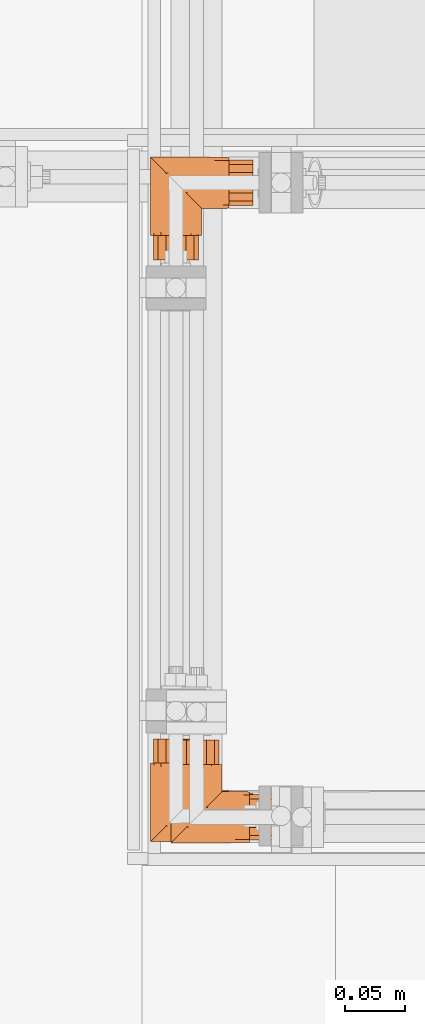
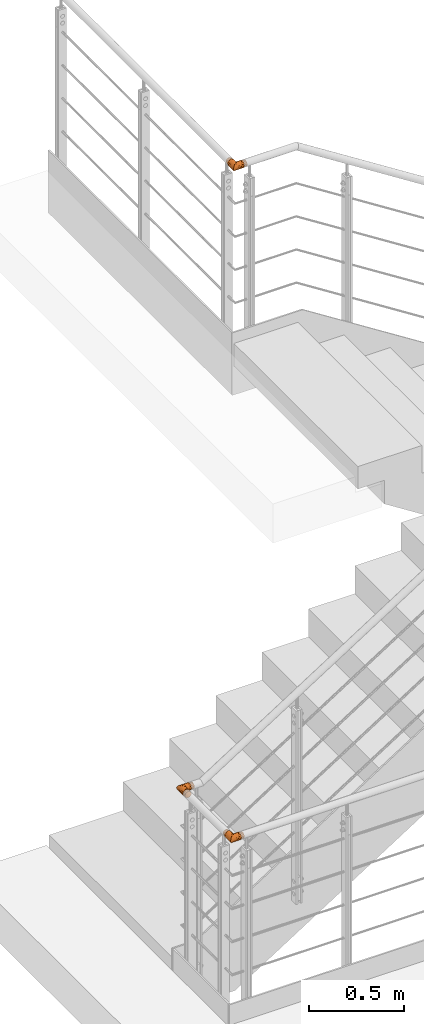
# One storey, part 95 of 98: 3 proxies.
"""IFC2X3 building model written with IfcOpenShell, lengths in millimetres."""

from ifc_helpers import new_model, entity, si_unit, converted_unit, origin_with_axes, place, context, project, spatial, faceted_brep, material, element, save


model = new_model("IFC2X3")

# Units and contexts
model_context = context("Model", 3, precision=1e-09, world=origin_with_axes())
ifc_project = project(units=[si_unit("LENGTHUNIT", "METRE", prefix="MILLI"), si_unit("AREAUNIT", "SQUARE_METRE"), si_unit("VOLUMEUNIT", "CUBIC_METRE"), converted_unit("PLANEANGLEUNIT", "DEGREE", entity("IfcPlaneAngleMeasure", 0.01745329), si_unit("PLANEANGLEUNIT", "RADIAN"), dimensions=[0, 0, 0, 0, 0, 0, 0])], contexts=[model_context])

# Site, building, storey
site_placement = place(None, origin_with_axes())
site = spatial("IfcSite", under=ifc_project, at=site_placement, Name="Maybachstra?e 2, 71563 Affalterbach", CompositionType="ELEMENT")
building_placement = place(site_placement, origin_with_axes())
building = spatial("IfcBuilding", under=site, at=building_placement, Name="Struktur 1", CompositionType="ELEMENT")
storey_placement = place(building_placement, origin_with_axes())
storey = spatial("IfcBuildingStorey", under=building, at=storey_placement, Name="Default Storey", CompositionType="ELEMENT", Elevation=0.0)

# Proxies
ifc_material = material(Name="1.4301")
proxy_1_placement = place(None, origin_with_axes())
element("IfcBuildingElementProxy", 1, at=proxy_1_placement, inside=storey, material=ifc_material, ObjectType="-", context=model_context, shape_type="Brep", body=[
    faceted_brep([(7364.828157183, -550.330130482, 4483.061275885), (7384.828157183, -550.330130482, 4483.061275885), (7384.828157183, -550.330130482, 4474.538724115), (7364.828157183, -550.330130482, 4474.538724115), (7384.828157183, -583.972072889, 4466.860170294), (7384.828157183, -577.308873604, 4461.54644618), (7384.828157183, -569.0, 4459.65), (7384.828157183, -560.691126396, 4461.54644618), (7384.828157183, -554.027927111, 4466.860170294), (7384.828157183, -554.027927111, 4490.739829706), (7384.828157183, -560.691126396, 4496.05355382), (7384.828157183, -569.0, 4497.95), (7384.828157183, -577.308873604, 4496.05355382), (7384.828157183, -583.972072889, 4490.739829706), (7384.828157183, -587.669869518, 4483.061275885), (7384.828157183, -587.669869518, 4474.538724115), (7364.828157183, -554.027927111, 4490.739829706), (7364.828157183, -583.972072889, 4490.739829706), (7364.828157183, -577.308873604, 4496.05355382), (7364.828157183, -569.0, 4497.95), (7364.828157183, -560.691126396, 4496.05355382), (7364.828157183, -554.027927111, 4466.860170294), (7364.828157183, -560.691126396, 4461.54644618), (7364.828157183, -569.0, 4459.65), (7364.828157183, -577.308873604, 4461.54644618), (7364.828157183, -583.972072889, 4466.860170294), (7364.828157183, -587.669869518, 4474.538724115), (7364.828157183, -587.669869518, 4483.061275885)], [[[0, 1, 2, 3]], [[4, 5, 6, 7, 8, 2, 1, 9, 10, 11, 12, 13, 14, 15]], [[1, 0, 16, 9]], [[17, 18, 19, 20, 16, 0, 3, 21, 22, 23, 24, 25, 26, 27]], [[3, 2, 8, 21]], [[9, 16, 20, 10]], [[21, 8, 7, 22]], [[10, 20, 19, 11]], [[22, 7, 6, 23]], [[11, 19, 18, 12]], [[23, 6, 5, 24]], [[17, 13, 12, 18]], [[13, 17, 27, 14]], [[24, 5, 4, 25]], [[14, 27, 26, 15]], [[25, 4, 15, 26]]]),
    faceted_brep([(7300.235509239, -589.792647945, 4482.935914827), (7301.441911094, -588.586246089, 4486.912888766), (7303.401001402, -586.627155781, 4490.57808894), (7306.037493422, -583.990663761, 4493.790663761), (7312.915268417, -577.112888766, 4498.386246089), (7321.028157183, -569.0, 4500.0), (7329.141045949, -560.887111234, 4498.386246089), (7336.018820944, -554.009336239, 4493.790663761), (7338.655312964, -551.372844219, 4490.57808894), (7340.614403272, -549.413753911, 4486.912888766), (7341.820805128, -548.207352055, 4482.935914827), (7342.228157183, -547.8, 4478.8), (7341.820805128, -548.207352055, 4474.664085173), (7340.614403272, -549.413753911, 4470.687111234), (7338.655312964, -551.372844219, 4467.02191106), (7336.018820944, -554.009336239, 4463.809336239), (7329.141045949, -560.887111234, 4459.213753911), (7321.028157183, -569.0, 4457.6), (7312.915268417, -577.112888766, 4459.213753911), (7306.037493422, -583.990663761, 4463.809336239), (7303.401001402, -586.627155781, 4467.02191106), (7301.441911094, -588.586246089, 4470.687111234), (7300.235509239, -589.792647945, 4474.664085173), (7299.828157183, -590.2, 4478.8), (7364.828157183, -564.592272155, 4499.536729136), (7364.828157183, -569.0, 4457.6), (7364.828157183, -556.538952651, 4495.951160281), (7364.828157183, -573.407727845, 4499.536729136), (7364.828157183, -560.377183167, 4459.432836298), (7364.828157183, -553.2453297, 4464.614431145), (7364.828157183, -548.837601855, 4472.248839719), (7364.828157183, -547.916135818, 4481.016003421), (7364.828157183, -550.64026144, 4489.4), (7364.828157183, -581.461047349, 4495.951160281), (7364.828157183, -587.35973856, 4489.4), (7364.828157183, -590.083864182, 4481.016003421), (7364.828157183, -589.162398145, 4472.248839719), (7364.828157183, -584.7546703, 4464.614431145), (7364.828157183, -577.622816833, 4459.432836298)], [[[0, 1, 2, 3, 4, 5, 6, 7, 8, 9, 10, 11, 12, 13, 14, 15, 16, 17, 18, 19, 20, 21, 22, 23]], [[6, 5, 24]], [[17, 16, 25]], [[26, 6, 24]], [[24, 5, 27]], [[18, 17, 25]], [[25, 16, 28]], [[7, 6, 26]], [[28, 29, 30, 31, 32, 26, 24, 27, 33, 34, 35, 36, 37, 38, 25]], [[5, 4, 27]], [[38, 18, 25]], [[16, 15, 28]], [[8, 7, 32]], [[32, 7, 26]], [[27, 4, 33]], [[19, 18, 38]], [[11, 10, 31]], [[28, 15, 29]], [[9, 8, 32]], [[10, 9, 31]], [[4, 3, 33]], [[37, 19, 38]], [[31, 12, 11]], [[13, 12, 30]], [[14, 13, 30]], [[15, 14, 29]], [[31, 9, 32]], [[33, 3, 34]], [[20, 19, 37]], [[30, 12, 31]], [[29, 14, 30]], [[3, 2, 34]], [[36, 20, 37]], [[2, 1, 34]], [[21, 20, 36]], [[34, 1, 35]], [[22, 21, 36]], [[35, 22, 36]], [[1, 0, 35]], [[0, 23, 35]], [[35, 23, 22]]]),
    faceted_brep([(7302.358287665, -505.2, 4474.538724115), (7302.358287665, -525.2, 4474.538724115), (7302.358287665, -525.2, 4483.061275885), (7302.358287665, -505.2, 4483.061275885), (7306.056084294, -525.2, 4490.739829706), (7306.056084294, -505.2, 4490.739829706), (7336.000230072, -525.2, 4490.739829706), (7329.337030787, -525.2, 4496.05355382), (7321.028157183, -525.2, 4497.95), (7312.719283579, -525.2, 4496.05355382), (7306.056084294, -525.2, 4466.860170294), (7312.719283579, -525.2, 4461.54644618), (7321.028157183, -525.2, 4459.65), (7329.337030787, -525.2, 4461.54644618), (7336.000230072, -525.2, 4466.860170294), (7339.698026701, -525.2, 4474.538724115), (7339.698026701, -525.2, 4483.061275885), (7306.056084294, -505.2, 4466.860170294), (7336.000230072, -505.2, 4466.860170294), (7329.337030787, -505.2, 4461.54644618), (7321.028157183, -505.2, 4459.65), (7312.719283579, -505.2, 4461.54644618), (7312.719283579, -505.2, 4496.05355382), (7321.028157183, -505.2, 4497.95), (7329.337030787, -505.2, 4496.05355382), (7336.000230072, -505.2, 4490.739829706), (7339.698026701, -505.2, 4483.061275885), (7339.698026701, -505.2, 4474.538724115)], [[[0, 1, 2, 3]], [[3, 2, 4, 5]], [[6, 7, 8, 9, 4, 2, 1, 10, 11, 12, 13, 14, 15, 16]], [[1, 0, 17, 10]], [[18, 19, 20, 21, 17, 0, 3, 5, 22, 23, 24, 25, 26, 27]], [[5, 4, 9, 22]], [[10, 17, 21, 11]], [[20, 12, 11, 21]], [[22, 9, 8, 23]], [[12, 20, 19, 13]], [[13, 19, 18, 14]], [[23, 8, 7, 24]], [[6, 25, 24, 7]], [[16, 26, 25, 6]], [[15, 27, 26, 16]], [[14, 18, 27, 15]]]),
    faceted_brep([(7321.028157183, -525.2, 4457.6), (7321.028157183, -569.0, 4457.6), (7312.40534035, -525.2, 4459.432836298), (7306.037493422, -583.990663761, 4463.809336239), (7305.273486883, -525.2, 4464.614431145), (7333.489204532, -525.2, 4495.951160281), (7339.387895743, -525.2, 4489.4), (7342.112021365, -525.2, 4481.016003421), (7341.190555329, -525.2, 4472.248839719), (7336.782827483, -525.2, 4464.614431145), (7329.650974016, -525.2, 4459.432836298), (7300.865759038, -525.2, 4472.248839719), (7299.944293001, -525.2, 4481.016003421), (7302.668418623, -525.2, 4489.4), (7308.567109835, -525.2, 4495.951160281), (7316.620429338, -525.2, 4499.536729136), (7325.435885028, -525.2, 4499.536729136), (7329.141045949, -560.887111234, 4459.213753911), (7341.820805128, -548.207352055, 4482.935914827), (7340.614403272, -549.413753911, 4486.912888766), (7338.655312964, -551.372844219, 4490.57808894), (7336.018820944, -554.009336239, 4493.790663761), (7329.141045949, -560.887111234, 4498.386246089), (7321.028157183, -569.0, 4500.0), (7312.915268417, -577.112888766, 4498.386246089), (7306.037493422, -583.990663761, 4493.790663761), (7303.401001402, -586.627155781, 4490.57808894), (7301.441911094, -588.586246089, 4486.912888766), (7300.235509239, -589.792647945, 4482.935914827), (7299.828157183, -590.2, 4478.8), (7300.235509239, -589.792647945, 4474.664085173), (7301.441911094, -588.586246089, 4470.687111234), (7303.401001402, -586.627155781, 4467.02191106), (7312.915268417, -577.112888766, 4459.213753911), (7336.018820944, -554.009336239, 4463.809336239), (7338.655312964, -551.372844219, 4467.02191106), (7340.614403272, -549.413753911, 4470.687111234), (7341.820805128, -548.207352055, 4474.664085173), (7342.228157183, -547.8, 4478.8)], [[[0, 1, 2]], [[2, 3, 4]], [[5, 6, 7, 8, 9, 10, 0, 2, 4, 11, 12, 13, 14, 15, 16]], [[17, 1, 0]], [[18, 19, 20, 21, 22, 23, 24, 25, 26, 27, 28, 29, 30, 31, 32, 3, 33, 1, 17, 34, 35, 36, 37, 38]], [[1, 33, 2]], [[33, 3, 2]], [[32, 31, 11]], [[3, 32, 4]], [[10, 17, 0]], [[24, 23, 15]], [[15, 23, 16]], [[23, 22, 16]], [[30, 29, 12]], [[31, 30, 11]], [[4, 32, 11]], [[34, 17, 10]], [[14, 24, 15]], [[12, 29, 28]], [[16, 22, 5]], [[11, 30, 12]], [[9, 34, 10]], [[25, 24, 14]], [[26, 25, 13]], [[27, 26, 13]], [[28, 27, 12]], [[22, 21, 5]], [[35, 34, 9]], [[13, 25, 14]], [[12, 27, 13]], [[5, 21, 6]], [[8, 35, 9]], [[21, 20, 6]], [[7, 37, 8]], [[36, 35, 8]], [[20, 19, 6]], [[38, 37, 7]], [[37, 36, 8]], [[18, 38, 7]], [[6, 19, 7]], [[7, 19, 18]]]),
])
proxy_2_placement = place(None, origin_with_axes())
element("IfcBuildingElementProxy", 2, at=proxy_2_placement, inside=storey, material=ifc_material, ObjectType="-", context=model_context, shape_type="Brep", body=[
    faceted_brep([(7384.828157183, -63.669869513, 4483.061275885), (7364.828157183, -63.669869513, 4483.061275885), (7364.828157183, -63.669869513, 4474.538724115), (7384.828157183, -63.669869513, 4474.538724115), (7384.828157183, -36.69112639, 4461.54644618), (7384.828157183, -30.027927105, 4466.860170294), (7384.828157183, -26.330130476, 4474.538724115), (7384.828157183, -26.330130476, 4483.061275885), (7384.828157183, -30.027927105, 4490.739829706), (7384.828157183, -36.69112639, 4496.05355382), (7384.828157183, -44.999999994, 4497.95), (7384.828157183, -53.308873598, 4496.05355382), (7384.828157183, -59.972072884, 4490.739829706), (7384.828157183, -59.972072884, 4466.860170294), (7384.828157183, -53.308873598, 4461.54644618), (7384.828157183, -44.999999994, 4459.65), (7364.828157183, -59.972072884, 4490.739829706), (7364.828157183, -36.69112639, 4496.05355382), (7364.828157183, -30.027927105, 4490.739829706), (7364.828157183, -26.330130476, 4483.061275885), (7364.828157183, -26.330130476, 4474.538724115), (7364.828157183, -30.027927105, 4466.860170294), (7364.828157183, -36.69112639, 4461.54644618), (7364.828157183, -44.999999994, 4459.65), (7364.828157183, -53.308873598, 4461.54644618), (7364.828157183, -59.972072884, 4466.860170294), (7364.828157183, -53.308873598, 4496.05355382), (7364.828157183, -44.999999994, 4497.95)], [[[0, 1, 2, 3]], [[4, 5, 6, 7, 8, 9, 10, 11, 12, 0, 3, 13, 14, 15]], [[1, 0, 12, 16]], [[17, 18, 19, 20, 21, 22, 23, 24, 25, 2, 1, 16, 26, 27]], [[3, 2, 25, 13]], [[16, 12, 11, 26]], [[13, 25, 24, 14]], [[26, 11, 10, 27]], [[14, 24, 23, 15]], [[27, 10, 9, 17]], [[15, 23, 22, 4]], [[8, 18, 17, 9]], [[18, 8, 7, 19]], [[4, 22, 21, 5]], [[19, 7, 6, 20]], [[5, 21, 20, 6]]]),
    faceted_brep([(7301.441911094, -25.413753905, 4486.912888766), (7300.235509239, -24.20735205, 4482.935914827), (7299.828157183, -23.799999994, 4478.8), (7300.235509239, -24.20735205, 4474.664085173), (7301.441911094, -25.413753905, 4470.687111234), (7303.401001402, -27.372844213, 4467.02191106), (7306.037493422, -30.009336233, 4463.809336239), (7312.915268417, -36.887111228, 4459.213753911), (7321.028157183, -44.999999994, 4457.6), (7329.141045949, -53.11288876, 4459.213753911), (7336.018820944, -59.990663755, 4463.809336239), (7338.655312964, -62.627155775, 4467.02191106), (7340.614403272, -64.586246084, 4470.687111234), (7341.820805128, -65.792647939, 4474.664085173), (7342.228157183, -66.199999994, 4478.8), (7341.820805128, -65.792647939, 4482.935914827), (7340.614403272, -64.586246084, 4486.912888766), (7338.655312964, -62.627155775, 4490.57808894), (7336.018820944, -59.990663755, 4493.790663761), (7329.141045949, -53.11288876, 4498.386246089), (7321.028157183, -44.999999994, 4500.0), (7312.915268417, -36.887111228, 4498.386246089), (7306.037493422, -30.009336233, 4493.790663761), (7303.401001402, -27.372844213, 4490.57808894), (7364.828157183, -49.40772784, 4499.536729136), (7364.828157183, -44.999999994, 4457.6), (7364.828157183, -57.461047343, 4495.951160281), (7364.828157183, -40.592272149, 4499.536729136), (7364.828157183, -53.622816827, 4459.432836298), (7364.828157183, -60.754670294, 4464.614431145), (7364.828157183, -36.377183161, 4459.432836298), (7364.828157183, -29.245329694, 4464.614431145), (7364.828157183, -24.837601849, 4472.248839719), (7364.828157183, -23.916135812, 4481.016003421), (7364.828157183, -26.640261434, 4489.4), (7364.828157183, -32.538952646, 4495.951160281), (7364.828157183, -63.359738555, 4489.4), (7364.828157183, -66.083864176, 4481.016003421), (7364.828157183, -65.16239814, 4472.248839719)], [[[0, 1, 2, 3, 4, 5, 6, 7, 8, 9, 10, 11, 12, 13, 14, 15, 16, 17, 18, 19, 20, 21, 22, 23]], [[20, 19, 24]], [[9, 8, 25]], [[19, 26, 24]], [[20, 24, 27]], [[8, 7, 25]], [[9, 25, 28]], [[19, 18, 26]], [[29, 28, 25, 30, 31, 32, 33, 34, 35, 27, 24, 26, 36, 37, 38]], [[21, 20, 27]], [[7, 30, 25]], [[10, 9, 28]], [[18, 17, 36]], [[18, 36, 26]], [[21, 27, 35]], [[7, 6, 30]], [[15, 14, 37]], [[10, 28, 29]], [[17, 16, 36]], [[16, 15, 37]], [[22, 21, 35]], [[6, 31, 30]], [[13, 37, 14]], [[13, 12, 38]], [[12, 11, 38]], [[11, 10, 29]], [[16, 37, 36]], [[22, 35, 34]], [[6, 5, 31]], [[13, 38, 37]], [[11, 29, 38]], [[23, 22, 34]], [[5, 32, 31]], [[0, 23, 34]], [[5, 4, 32]], [[0, 34, 33]], [[4, 3, 32]], [[3, 33, 32]], [[1, 0, 33]], [[2, 1, 33]], [[2, 33, 3]]]),
    faceted_brep([(7302.358287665, -88.799999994, 4474.538724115), (7302.358287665, -108.799999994, 4474.538724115), (7302.358287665, -108.799999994, 4483.061275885), (7302.358287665, -88.799999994, 4483.061275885), (7306.056084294, -108.799999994, 4490.739829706), (7306.056084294, -88.799999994, 4490.739829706), (7329.337030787, -88.799999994, 4496.05355382), (7336.000230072, -88.799999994, 4490.739829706), (7339.698026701, -88.799999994, 4483.061275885), (7339.698026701, -88.799999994, 4474.538724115), (7336.000230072, -88.799999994, 4466.860170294), (7329.337030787, -88.799999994, 4461.54644618), (7321.028157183, -88.799999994, 4459.65), (7312.719283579, -88.799999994, 4461.54644618), (7306.056084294, -88.799999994, 4466.860170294), (7312.719283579, -88.799999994, 4496.05355382), (7321.028157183, -88.799999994, 4497.95), (7306.056084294, -108.799999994, 4466.860170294), (7329.337030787, -108.799999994, 4461.54644618), (7336.000230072, -108.799999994, 4466.860170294), (7339.698026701, -108.799999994, 4474.538724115), (7339.698026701, -108.799999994, 4483.061275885), (7336.000230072, -108.799999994, 4490.739829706), (7329.337030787, -108.799999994, 4496.05355382), (7321.028157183, -108.799999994, 4497.95), (7312.719283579, -108.799999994, 4496.05355382), (7312.719283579, -108.799999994, 4461.54644618), (7321.028157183, -108.799999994, 4459.65)], [[[0, 1, 2, 3]], [[3, 2, 4, 5]], [[6, 7, 8, 9, 10, 11, 12, 13, 14, 0, 3, 5, 15, 16]], [[1, 0, 14, 17]], [[18, 19, 20, 21, 22, 23, 24, 25, 4, 2, 1, 17, 26, 27]], [[5, 4, 25, 15]], [[17, 14, 13, 26]], [[12, 27, 26, 13]], [[15, 25, 24, 16]], [[27, 12, 11, 18]], [[18, 11, 10, 19]], [[16, 24, 23, 6]], [[22, 7, 6, 23]], [[21, 8, 7, 22]], [[20, 9, 8, 21]], [[19, 10, 9, 20]]]),
    faceted_brep([(7321.028157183, -44.999999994, 4457.6), (7321.028157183, -88.799999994, 4457.6), (7312.40534035, -88.799999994, 4459.432836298), (7306.037493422, -30.009336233, 4463.809336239), (7305.273486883, -88.799999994, 4464.614431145), (7339.387895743, -88.799999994, 4489.4), (7333.489204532, -88.799999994, 4495.951160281), (7325.435885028, -88.799999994, 4499.536729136), (7316.620429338, -88.799999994, 4499.536729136), (7308.567109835, -88.799999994, 4495.951160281), (7302.668418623, -88.799999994, 4489.4), (7299.944293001, -88.799999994, 4481.016003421), (7300.865759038, -88.799999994, 4472.248839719), (7329.650974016, -88.799999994, 4459.432836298), (7336.782827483, -88.799999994, 4464.614431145), (7341.190555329, -88.799999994, 4472.248839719), (7342.112021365, -88.799999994, 4481.016003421), (7329.141045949, -53.11288876, 4459.213753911), (7340.614403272, -64.586246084, 4486.912888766), (7341.820805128, -65.792647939, 4482.935914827), (7342.228157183, -66.199999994, 4478.8), (7341.820805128, -65.792647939, 4474.664085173), (7340.614403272, -64.586246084, 4470.687111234), (7338.655312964, -62.627155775, 4467.02191106), (7336.018820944, -59.990663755, 4463.809336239), (7312.915268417, -36.887111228, 4459.213753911), (7303.401001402, -27.372844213, 4467.02191106), (7301.441911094, -25.413753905, 4470.687111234), (7300.235509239, -24.20735205, 4474.664085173), (7299.828157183, -23.799999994, 4478.8), (7300.235509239, -24.20735205, 4482.935914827), (7301.441911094, -25.413753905, 4486.912888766), (7303.401001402, -27.372844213, 4490.57808894), (7306.037493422, -30.009336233, 4493.790663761), (7312.915268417, -36.887111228, 4498.386246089), (7321.028157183, -44.999999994, 4500.0), (7329.141045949, -53.11288876, 4498.386246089), (7336.018820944, -59.990663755, 4493.790663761), (7338.655312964, -62.627155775, 4490.57808894)], [[[0, 1, 2]], [[3, 2, 4]], [[5, 6, 7, 8, 9, 10, 11, 12, 4, 2, 1, 13, 14, 15, 16]], [[0, 17, 1]], [[18, 19, 20, 21, 22, 23, 24, 17, 0, 25, 3, 26, 27, 28, 29, 30, 31, 32, 33, 34, 35, 36, 37, 38]], [[25, 0, 2]], [[3, 25, 2]], [[27, 26, 12]], [[26, 3, 4]], [[17, 13, 1]], [[35, 34, 8]], [[35, 8, 7]], [[36, 35, 7]], [[29, 28, 11]], [[28, 27, 12]], [[26, 4, 12]], [[17, 24, 13]], [[34, 9, 8]], [[29, 11, 30]], [[36, 7, 6]], [[28, 12, 11]], [[24, 14, 13]], [[34, 33, 9]], [[33, 32, 10]], [[32, 31, 10]], [[31, 30, 11]], [[37, 36, 6]], [[24, 23, 14]], [[33, 10, 9]], [[31, 11, 10]], [[37, 6, 5]], [[23, 15, 14]], [[38, 37, 5]], [[21, 16, 15]], [[23, 22, 15]], [[18, 38, 5]], [[21, 20, 16]], [[22, 21, 15]], [[20, 19, 16]], [[18, 5, 16]], [[18, 16, 19]]]),
])
proxy_3_placement = place(None, origin_with_axes())
element("IfcBuildingElementProxy", 3, at=proxy_3_placement, inside=storey, material=ifc_material, ObjectType="-", context=model_context, shape_type="Brep", body=[
    faceted_brep([(7381.829157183, -551.330130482, 8778.061275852), (7401.829157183, -551.330130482, 8778.061275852), (7401.829157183, -551.330130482, 8769.538724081), (7381.829157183, -551.330130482, 8769.538724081), (7401.829157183, -584.972072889, 8761.860170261), (7401.829157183, -578.308873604, 8756.546446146), (7401.829157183, -570.0, 8754.649999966), (7401.829157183, -561.691126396, 8756.546446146), (7401.829157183, -555.027927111, 8761.860170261), (7401.829157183, -555.027927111, 8785.739829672), (7401.829157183, -561.691126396, 8791.053553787), (7401.829157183, -570.0, 8792.949999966), (7401.829157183, -578.308873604, 8791.053553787), (7401.829157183, -584.972072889, 8785.739829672), (7401.829157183, -588.669869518, 8778.061275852), (7401.829157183, -588.669869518, 8769.538724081), (7381.829157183, -555.027927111, 8785.739829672), (7381.829157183, -584.972072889, 8785.739829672), (7381.829157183, -578.308873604, 8791.053553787), (7381.829157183, -570.0, 8792.949999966), (7381.829157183, -561.691126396, 8791.053553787), (7381.829157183, -555.027927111, 8761.860170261), (7381.829157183, -561.691126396, 8756.546446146), (7381.829157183, -570.0, 8754.649999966), (7381.829157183, -578.308873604, 8756.546446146), (7381.829157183, -584.972072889, 8761.860170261), (7381.829157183, -588.669869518, 8769.538724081), (7381.829157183, -588.669869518, 8778.061275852)], [[[0, 1, 2, 3]], [[4, 5, 6, 7, 8, 2, 1, 9, 10, 11, 12, 13, 14, 15]], [[1, 0, 16, 9]], [[17, 18, 19, 20, 16, 0, 3, 21, 22, 23, 24, 25, 26, 27]], [[3, 2, 8, 21]], [[9, 16, 20, 10]], [[21, 8, 7, 22]], [[10, 20, 19, 11]], [[22, 7, 6, 23]], [[11, 19, 18, 12]], [[23, 6, 5, 24]], [[17, 13, 12, 18]], [[13, 17, 27, 14]], [[24, 5, 4, 25]], [[14, 27, 26, 15]], [[25, 4, 15, 26]]]),
    faceted_brep([(7317.236509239, -590.792647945, 8777.935914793), (7318.442911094, -589.586246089, 8781.912888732), (7320.402001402, -587.627155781, 8785.578088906), (7323.038493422, -584.990663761, 8788.790663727), (7329.916268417, -578.112888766, 8793.386246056), (7338.029157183, -570.0, 8794.999999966), (7346.142045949, -561.887111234, 8793.386246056), (7353.019820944, -555.009336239, 8788.790663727), (7355.656312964, -552.372844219, 8785.578088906), (7357.615403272, -550.413753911, 8781.912888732), (7358.821805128, -549.207352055, 8777.935914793), (7359.229157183, -548.8, 8773.799999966), (7358.821805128, -549.207352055, 8769.66408514), (7357.615403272, -550.413753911, 8765.6871112), (7355.656312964, -552.372844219, 8762.021911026), (7353.019820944, -555.009336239, 8758.809336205), (7346.142045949, -561.887111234, 8754.213753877), (7338.029157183, -570.0, 8752.599999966), (7329.916268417, -578.112888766, 8754.213753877), (7323.038493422, -584.990663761, 8758.809336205), (7320.402001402, -587.627155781, 8762.021911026), (7318.442911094, -589.586246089, 8765.6871112), (7317.236509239, -590.792647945, 8769.66408514), (7316.829157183, -591.2, 8773.799999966), (7381.829157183, -565.592272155, 8794.536729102), (7381.829157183, -570.0, 8752.599999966), (7381.829157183, -557.538952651, 8790.951160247), (7381.829157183, -574.407727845, 8794.536729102), (7381.829157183, -561.377183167, 8754.432836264), (7381.829157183, -554.2453297, 8759.614431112), (7381.829157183, -549.837601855, 8767.248839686), (7381.829157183, -548.916135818, 8776.016003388), (7381.829157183, -551.64026144, 8784.399999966), (7381.829157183, -582.461047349, 8790.951160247), (7381.829157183, -588.35973856, 8784.399999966), (7381.829157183, -591.083864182, 8776.016003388), (7381.829157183, -590.162398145, 8767.248839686), (7381.829157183, -585.7546703, 8759.614431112), (7381.829157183, -578.622816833, 8754.432836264)], [[[0, 1, 2, 3, 4, 5, 6, 7, 8, 9, 10, 11, 12, 13, 14, 15, 16, 17, 18, 19, 20, 21, 22, 23]], [[6, 5, 24]], [[17, 16, 25]], [[26, 6, 24]], [[24, 5, 27]], [[18, 17, 25]], [[25, 16, 28]], [[7, 6, 26]], [[28, 29, 30, 31, 32, 26, 24, 27, 33, 34, 35, 36, 37, 38, 25]], [[5, 4, 27]], [[38, 18, 25]], [[16, 15, 28]], [[8, 7, 32]], [[32, 7, 26]], [[27, 4, 33]], [[19, 18, 38]], [[11, 10, 31]], [[28, 15, 29]], [[9, 8, 32]], [[10, 9, 31]], [[4, 3, 33]], [[37, 19, 38]], [[31, 12, 11]], [[13, 12, 30]], [[14, 13, 30]], [[15, 14, 29]], [[31, 9, 32]], [[33, 3, 34]], [[20, 19, 37]], [[30, 12, 31]], [[29, 14, 30]], [[3, 2, 34]], [[36, 20, 37]], [[2, 1, 34]], [[21, 20, 36]], [[34, 1, 35]], [[22, 21, 36]], [[35, 22, 36]], [[1, 0, 35]], [[0, 23, 35]], [[35, 23, 22]]]),
    faceted_brep([(7319.359287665, -506.2, 8769.538724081), (7319.359287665, -526.2, 8769.538724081), (7319.359287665, -526.2, 8778.061275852), (7319.359287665, -506.2, 8778.061275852), (7323.057084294, -526.2, 8785.739829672), (7323.057084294, -506.2, 8785.739829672), (7353.001230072, -526.2, 8785.739829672), (7346.338030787, -526.2, 8791.053553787), (7338.029157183, -526.2, 8792.949999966), (7329.720283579, -526.2, 8791.053553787), (7323.057084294, -526.2, 8761.860170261), (7329.720283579, -526.2, 8756.546446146), (7338.029157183, -526.2, 8754.649999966), (7346.338030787, -526.2, 8756.546446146), (7353.001230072, -526.2, 8761.860170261), (7356.699026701, -526.2, 8769.538724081), (7356.699026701, -526.2, 8778.061275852), (7323.057084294, -506.2, 8761.860170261), (7353.001230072, -506.2, 8761.860170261), (7346.338030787, -506.2, 8756.546446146), (7338.029157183, -506.2, 8754.649999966), (7329.720283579, -506.2, 8756.546446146), (7329.720283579, -506.2, 8791.053553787), (7338.029157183, -506.2, 8792.949999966), (7346.338030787, -506.2, 8791.053553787), (7353.001230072, -506.2, 8785.739829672), (7356.699026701, -506.2, 8778.061275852), (7356.699026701, -506.2, 8769.538724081)], [[[0, 1, 2, 3]], [[3, 2, 4, 5]], [[6, 7, 8, 9, 4, 2, 1, 10, 11, 12, 13, 14, 15, 16]], [[1, 0, 17, 10]], [[18, 19, 20, 21, 17, 0, 3, 5, 22, 23, 24, 25, 26, 27]], [[5, 4, 9, 22]], [[10, 17, 21, 11]], [[20, 12, 11, 21]], [[22, 9, 8, 23]], [[12, 20, 19, 13]], [[13, 19, 18, 14]], [[23, 8, 7, 24]], [[6, 25, 24, 7]], [[16, 26, 25, 6]], [[15, 27, 26, 16]], [[14, 18, 27, 15]]]),
    faceted_brep([(7338.029157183, -526.2, 8752.599999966), (7338.029157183, -570.0, 8752.599999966), (7329.40634035, -526.2, 8754.432836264), (7323.038493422, -584.990663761, 8758.809336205), (7322.274486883, -526.2, 8759.614431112), (7350.490204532, -526.2, 8790.951160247), (7356.388895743, -526.2, 8784.399999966), (7359.113021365, -526.2, 8776.016003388), (7358.191555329, -526.2, 8767.248839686), (7353.783827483, -526.2, 8759.614431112), (7346.651974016, -526.2, 8754.432836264), (7317.866759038, -526.2, 8767.248839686), (7316.945293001, -526.2, 8776.016003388), (7319.669418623, -526.2, 8784.399999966), (7325.568109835, -526.2, 8790.951160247), (7333.621429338, -526.2, 8794.536729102), (7342.436885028, -526.2, 8794.536729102), (7346.142045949, -561.887111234, 8754.213753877), (7358.821805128, -549.207352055, 8777.935914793), (7357.615403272, -550.413753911, 8781.912888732), (7355.656312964, -552.372844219, 8785.578088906), (7353.019820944, -555.009336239, 8788.790663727), (7346.142045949, -561.887111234, 8793.386246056), (7338.029157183, -570.0, 8794.999999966), (7329.916268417, -578.112888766, 8793.386246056), (7323.038493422, -584.990663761, 8788.790663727), (7320.402001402, -587.627155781, 8785.578088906), (7318.442911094, -589.586246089, 8781.912888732), (7317.236509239, -590.792647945, 8777.935914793), (7316.829157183, -591.2, 8773.799999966), (7317.236509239, -590.792647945, 8769.66408514), (7318.442911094, -589.586246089, 8765.6871112), (7320.402001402, -587.627155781, 8762.021911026), (7329.916268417, -578.112888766, 8754.213753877), (7353.019820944, -555.009336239, 8758.809336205), (7355.656312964, -552.372844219, 8762.021911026), (7357.615403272, -550.413753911, 8765.6871112), (7358.821805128, -549.207352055, 8769.66408514), (7359.229157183, -548.8, 8773.799999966)], [[[0, 1, 2]], [[2, 3, 4]], [[5, 6, 7, 8, 9, 10, 0, 2, 4, 11, 12, 13, 14, 15, 16]], [[17, 1, 0]], [[18, 19, 20, 21, 22, 23, 24, 25, 26, 27, 28, 29, 30, 31, 32, 3, 33, 1, 17, 34, 35, 36, 37, 38]], [[1, 33, 2]], [[33, 3, 2]], [[32, 31, 11]], [[3, 32, 4]], [[10, 17, 0]], [[24, 23, 15]], [[15, 23, 16]], [[23, 22, 16]], [[30, 29, 12]], [[31, 30, 11]], [[4, 32, 11]], [[34, 17, 10]], [[14, 24, 15]], [[12, 29, 28]], [[16, 22, 5]], [[11, 30, 12]], [[9, 34, 10]], [[25, 24, 14]], [[26, 25, 13]], [[27, 26, 13]], [[28, 27, 12]], [[22, 21, 5]], [[35, 34, 9]], [[13, 25, 14]], [[12, 27, 13]], [[5, 21, 6]], [[8, 35, 9]], [[21, 20, 6]], [[7, 37, 8]], [[36, 35, 8]], [[20, 19, 6]], [[38, 37, 7]], [[37, 36, 8]], [[18, 38, 7]], [[6, 19, 7]], [[7, 19, 18]]]),
])

save(model, "model.ifc")
